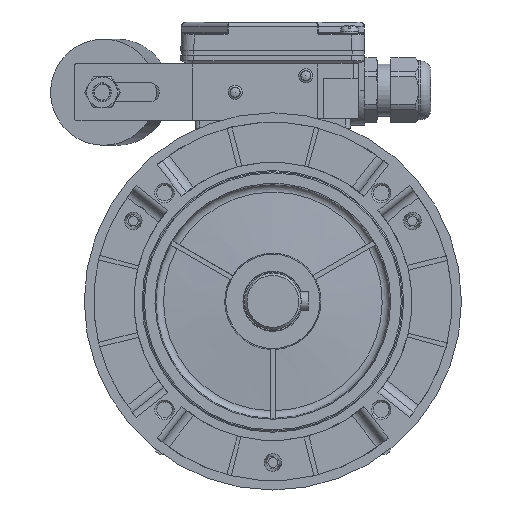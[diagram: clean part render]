
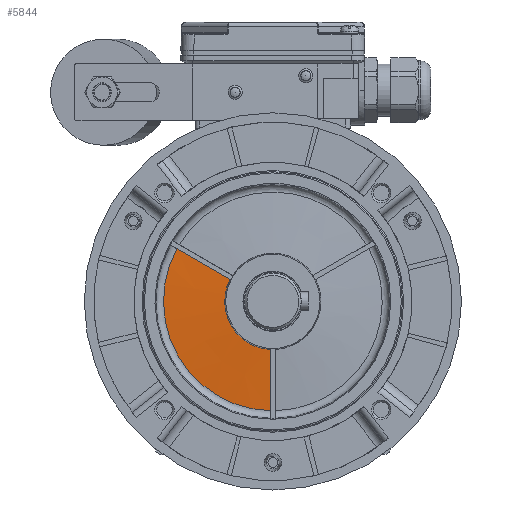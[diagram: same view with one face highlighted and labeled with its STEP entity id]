
A CAD part, left-side view. The second image highlights one B-rep face of the part: STEP entity #5844.
In plain terms, the highlighted conical face has half-angle 85.7 degrees and reference radius 49.5 mm.
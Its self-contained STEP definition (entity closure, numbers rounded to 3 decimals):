
#5844 = ADVANCED_FACE( '', ( #11754 ), #11755, .T. );
#11754 = FACE_OUTER_BOUND( '', #20782, .T. );
#11755 = CONICAL_SURFACE( '', #20783, 49.5, 1.496 );
#20782 = EDGE_LOOP( '', ( #37759, #37760, #37761, #37762 ) );
#20783 = AXIS2_PLACEMENT_3D( '', #37763, #37764, #37765 );
#37759 = ORIENTED_EDGE( '', *, *, #62243, .T. );
#37760 = ORIENTED_EDGE( '', *, *, #60769, .T. );
#37761 = ORIENTED_EDGE( '', *, *, #59628, .T. );
#37762 = ORIENTED_EDGE( '', *, *, #61625, .T. );
#37763 = CARTESIAN_POINT( '', ( 0., 37.297, 0. ) );
#37764 = DIRECTION( '', ( 0., -1., 0. ) );
#37765 = DIRECTION( '', ( 0., 0., -1. ) );
#59628 = EDGE_CURVE( '', #74850, #74851, #74852, .T. );
#60769 = EDGE_CURVE( '', #76340, #74850, #76341, .F. );
#61625 = EDGE_CURVE( '', #74851, #77362, #77364, .T. );
#62243 = EDGE_CURVE( '', #77362, #76340, #78036, .T. );
#74850 = VERTEX_POINT( '', #89452 );
#74851 = VERTEX_POINT( '', #89453 );
#74852 = B_SPLINE_CURVE_WITH_KNOTS( '', 3, ( #89454, #89455, #89456, #89457 ), .UNSPECIFIED., .F., .F., ( 4, 4 ), ( 0.022, 0.048 ), .UNSPECIFIED. );
#76340 = VERTEX_POINT( '', #92406 );
#76341 = CIRCLE( '', #92407, 46.381 );
#77362 = VERTEX_POINT( '', #94210 );
#77364 = CIRCLE( '', #94215, 20.416 );
#78036 = B_SPLINE_CURVE_WITH_KNOTS( '', 3, ( #95177, #95178, #95179, #95180 ), .UNSPECIFIED., .F., .F., ( 4, 4 ), ( 0.027, 0.053 ), .UNSPECIFIED. );
#89452 = CARTESIAN_POINT( '', ( 46.37, 37.532, 1. ) );
#89453 = CARTESIAN_POINT( '', ( 20.392, 39.484, 1. ) );
#89454 = CARTESIAN_POINT( '', ( 46.37, 37.532, 1. ) );
#89455 = CARTESIAN_POINT( '', ( 37.711, 38.183, 1. ) );
#89456 = CARTESIAN_POINT( '', ( 29.051, 38.834, 1. ) );
#89457 = CARTESIAN_POINT( '', ( 20.392, 39.484, 1. ) );
#92406 = CARTESIAN_POINT( '', ( -22.319, 37.532, 40.658 ) );
#92407 = AXIS2_PLACEMENT_3D( '', #105393, #105394, #105395 );
#94210 = CARTESIAN_POINT( '', ( -9.33, 39.484, 18.16 ) );
#94215 = AXIS2_PLACEMENT_3D( '', #106149, #106150, #106151 );
#95177 = CARTESIAN_POINT( '', ( -9.33, 39.484, 18.16 ) );
#95178 = CARTESIAN_POINT( '', ( -13.66, 38.834, 25.659 ) );
#95179 = CARTESIAN_POINT( '', ( -17.989, 38.183, 33.158 ) );
#95180 = CARTESIAN_POINT( '', ( -22.319, 37.532, 40.658 ) );
#105393 = CARTESIAN_POINT( '', ( 0., 37.532, 0. ) );
#105394 = DIRECTION( '', ( 0., -1., 0. ) );
#105395 = DIRECTION( '', ( 0., 0., -1. ) );
#106149 = CARTESIAN_POINT( '', ( 0., 39.484, 0. ) );
#106150 = DIRECTION( '', ( 0., -1., 0. ) );
#106151 = DIRECTION( '', ( 0., 0., -1. ) );
